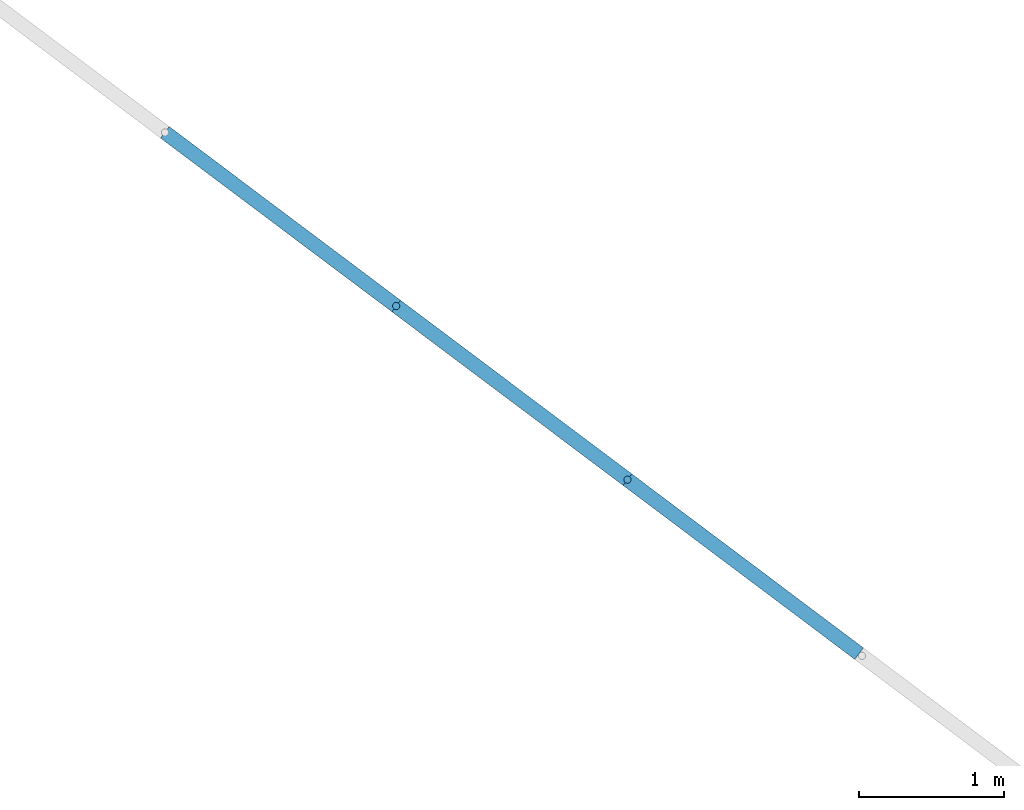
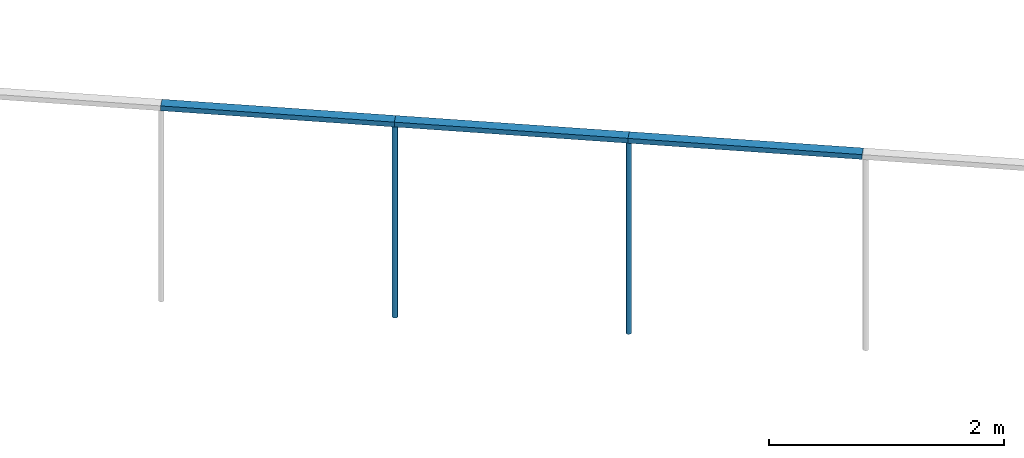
# One storey, part 8 of 12: 5 members, 1 element without a shape of its own.
"""IFC2X3 building model written with IfcOpenShell, lengths in metres."""

from ifc_helpers import new_model, entity, si_unit, converted_unit, derived_unit, direction, frame, frame_2d, origin, origin_2d_with_axis, place, context, subcontext, project, spatial, rectangle, circle, extrude, source, transform, mapped, material, type_object, type_shapes, element, aggregate, save


model = new_model("IFC2X3")

# Units and contexts
model_context = context("Model", 3, precision=1e-05, world=origin(), true_north=direction((6.123031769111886e-17, 1.0)))
body_context = subcontext(model_context, "Body", "Model", "MODEL_VIEW")
ifc_project = project(units=[si_unit("LENGTHUNIT", "METRE"), si_unit("AREAUNIT", "SQUARE_METRE"), si_unit("VOLUMEUNIT", "CUBIC_METRE"), converted_unit("PLANEANGLEUNIT", "DEGREE", entity("IfcRatioMeasure", 0.017453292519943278), si_unit("PLANEANGLEUNIT", "RADIAN"), dimensions=[0, 0, 0, 0, 0, 0, 0]), si_unit("MASSUNIT", "GRAM", prefix="KILO"), derived_unit("MASSDENSITYUNIT", [(si_unit("MASSUNIT", "GRAM", prefix="KILO"), 1), (si_unit("LENGTHUNIT", "METRE"), -3)]), derived_unit("IONCONCENTRATIONUNIT", [(si_unit("MASSUNIT", "GRAM", prefix="KILO"), 1), (si_unit("LENGTHUNIT", "METRE"), -3)]), derived_unit("MOMENTOFINERTIAUNIT", [(si_unit("LENGTHUNIT", "METRE"), 4)]), si_unit("TIMEUNIT", "SECOND"), si_unit("FREQUENCYUNIT", "HERTZ"), si_unit("THERMODYNAMICTEMPERATUREUNIT", "DEGREE_CELSIUS"), derived_unit("THERMALTRANSMITTANCEUNIT", [(si_unit("MASSUNIT", "GRAM", prefix="KILO"), 1), (si_unit("THERMODYNAMICTEMPERATUREUNIT", "KELVIN"), -1), (si_unit("TIMEUNIT", "SECOND"), -3)]), derived_unit("THERMALCONDUCTANCEUNIT", [(si_unit("MASSUNIT", "GRAM", prefix="KILO"), 1), (si_unit("THERMODYNAMICTEMPERATUREUNIT", "KELVIN"), -1), (si_unit("TIMEUNIT", "SECOND"), -3), (si_unit("LENGTHUNIT", "METRE"), 1)]), derived_unit("VOLUMETRICFLOWRATEUNIT", [(si_unit("LENGTHUNIT", "METRE"), 3), (si_unit("TIMEUNIT", "SECOND"), -1)]), derived_unit("MASSFLOWRATEUNIT", [(si_unit("MASSUNIT", "GRAM", prefix="KILO"), 1), (si_unit("TIMEUNIT", "SECOND"), -1)]), derived_unit("ROTATIONALFREQUENCYUNIT", [(si_unit("TIMEUNIT", "SECOND"), -1)]), si_unit("ELECTRICCURRENTUNIT", "AMPERE"), si_unit("ELECTRICVOLTAGEUNIT", "VOLT"), si_unit("POWERUNIT", "WATT"), si_unit("FORCEUNIT", "NEWTON", prefix="KILO"), si_unit("ILLUMINANCEUNIT", "LUX"), si_unit("LUMINOUSFLUXUNIT", "LUMEN"), si_unit("LUMINOUSINTENSITYUNIT", "CANDELA"), derived_unit("USERDEFINED", [(si_unit("MASSUNIT", "GRAM", prefix="KILO"), -1), (si_unit("LENGTHUNIT", "METRE"), -2), (si_unit("TIMEUNIT", "SECOND"), 3), (si_unit("LUMINOUSFLUXUNIT", "LUMEN"), 1)]), derived_unit("USERDEFINED", [(si_unit("MASSUNIT", "GRAM", prefix="KILO"), 1), (si_unit("TIMEUNIT", "SECOND"), -3), (si_unit("LENGTHUNIT", "METRE"), 3), (si_unit("ELECTRICCURRENTUNIT", "AMPERE"), -2)]), derived_unit("SOUNDPOWERUNIT", [(si_unit("MASSUNIT", "GRAM", prefix="KILO"), 1), (si_unit("TIMEUNIT", "SECOND"), -3), (si_unit("LENGTHUNIT", "METRE"), 2)]), derived_unit("SOUNDPRESSUREUNIT", [(si_unit("MASSUNIT", "GRAM", prefix="KILO"), 1), (si_unit("LENGTHUNIT", "METRE"), -1), (si_unit("TIMEUNIT", "SECOND"), -2)]), derived_unit("LINEARVELOCITYUNIT", [(si_unit("LENGTHUNIT", "METRE"), 1), (si_unit("TIMEUNIT", "SECOND"), -1)]), si_unit("PRESSUREUNIT", "PASCAL"), derived_unit("USERDEFINED", [(si_unit("MASSUNIT", "GRAM", prefix="KILO"), 1), (si_unit("LENGTHUNIT", "METRE"), -2), (si_unit("TIMEUNIT", "SECOND"), -2)]), derived_unit("LINEARFORCEUNIT", [(si_unit("MASSUNIT", "GRAM", prefix="KILO"), 1), (si_unit("TIMEUNIT", "SECOND"), -2)]), derived_unit("PLANARFORCEUNIT", [(si_unit("MASSUNIT", "GRAM", prefix="KILO"), 1), (si_unit("LENGTHUNIT", "METRE"), -1), (si_unit("TIMEUNIT", "SECOND"), -2)]), derived_unit("SPECIFICHEATCAPACITYUNIT", [(si_unit("THERMODYNAMICTEMPERATUREUNIT", "KELVIN"), -1), (si_unit("LENGTHUNIT", "METRE"), 2), (si_unit("TIMEUNIT", "SECOND"), -2)]), derived_unit("HEATINGVALUEUNIT", [(si_unit("LENGTHUNIT", "METRE"), 2), (si_unit("TIMEUNIT", "SECOND"), -2)]), derived_unit("VAPORPERMEABILITYUNIT", [(si_unit("LENGTHUNIT", "METRE"), -1), (si_unit("TIMEUNIT", "SECOND"), 1)]), derived_unit("DYNAMICVISCOSITYUNIT", [(si_unit("MASSUNIT", "GRAM", prefix="KILO"), 1), (si_unit("TIMEUNIT", "SECOND"), -1), (si_unit("LENGTHUNIT", "METRE"), -1)]), derived_unit("THERMALEXPANSIONCOEFFICIENTUNIT", [(si_unit("THERMODYNAMICTEMPERATUREUNIT", "KELVIN"), -1)]), derived_unit("MODULUSOFELASTICITYUNIT", [(si_unit("MASSUNIT", "GRAM", prefix="KILO"), 1), (si_unit("LENGTHUNIT", "METRE"), -1), (si_unit("TIMEUNIT", "SECOND"), -2)]), derived_unit("ISOTHERMALMOISTURECAPACITYUNIT", [(si_unit("LENGTHUNIT", "METRE"), 3), (si_unit("MASSUNIT", "GRAM", prefix="KILO"), -1)]), derived_unit("MOISTUREDIFFUSIVITYUNIT", [(si_unit("TIMEUNIT", "SECOND"), -1), (si_unit("LENGTHUNIT", "METRE"), 2)])], contexts=[model_context])

# Site, building, storey
site_placement = place(None, origin())
site = spatial("IfcSite", under=ifc_project, at=site_placement, Name="Superficie", CompositionType="ELEMENT")
building_placement = place(site_placement, frame((0.0, 0.0, 235.0), z_axis=(0.0, 0.0, 1.0), x_axis=(-0.7996477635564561, 0.6004693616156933, 0.0)))
building = spatial("IfcBuilding", under=site, at=building_placement, CompositionType="ELEMENT")
storey_placement = place(building_placement, frame((0.0, 0.0, -4.459999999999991)))
storey = spatial("IfcBuildingStorey", under=building, at=storey_placement, Name="PS1- Vestuari", CompositionType="ELEMENT", Elevation=-4.459999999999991)

# Curtain wall, members
curtain_wall_type = type_object("IfcCurtainWallType", Name="Muro cortina:SER EXT- Tanca exterior", PredefinedType="NOTDEFINED")
curtain_wall_placement = place(storey_placement, frame((0.0, 0.0, 4.459999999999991)))
curtain_wall = element("IfcCurtainWall", 1, at=curtain_wall_placement, inside=storey, type_object=curtain_wall_type, Name="Muro cortina:SER EXT- Tanca exterior", ObjectType="Muro cortina:SER EXT- Tanca exterior")
ifc_material_1 = material(Name="Acero inoxidable")
member_type_1 = type_object("IfcMemberType", Name="Montante circular:Perfil Tanca exterior", PredefinedType="MULLION", material=ifc_material_1)
shared_shape_1 = source(origin(), body_context, "Body", "SweptSolid", [
    extrude(circle(Radius=0.025, at=frame_2d((-2.1149748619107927e-18, -4.0388614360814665e-17), x_axis=(1.0, 0.0))), frame((0.0, 0.0, -2.0), z_axis=(0.0, 0.0, 1.0), x_axis=(-1.0, 0.0, 0.0)), (0.0, 0.0, 1.0), 1.9999999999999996),
])
type_shapes(member_type_1, [shared_shape_1])
member_1_placement = place(curtain_wall_placement, frame((47.93061441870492, -66.55949841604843, -5.509999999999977), z_axis=(0.0, 0.0, -1.0), x_axis=(-1.0, 0.0, 0.0)))
member_1 = element("IfcMember", 2, at=member_1_placement, type_object=member_type_1, material=ifc_material_1, Name="Montante circular:Perfil Tanca exterior", ObjectType="Montante circular:Perfil Tanca exterior", context=body_context, shape_type="MappedRepresentation", body=[
    mapped(shared_shape_1, transform((0.0, 0.0, 0.0), scale=1.0)),
])
member_2_placement = place(curtain_wall_placement, frame((45.93061441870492, -66.55949841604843, -5.509999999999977), z_axis=(0.0, 0.0, -1.0), x_axis=(-1.0, 0.0, 0.0)))
member_2 = element("IfcMember", 3, at=member_2_placement, type_object=member_type_1, material=ifc_material_1, Name="Montante circular:Perfil Tanca exterior", ObjectType="Montante circular:Perfil Tanca exterior", context=body_context, shape_type="MappedRepresentation", body=[
    mapped(shared_shape_1, transform((0.0, 0.0, 0.0), scale=1.0)),
])
ifc_material_2 = material(Name="_Formigó- Solera- T1- STR")
member_type_2 = type_object("IfcMemberType", Name="Montante rectangular:Montante rectangular 100x50", PredefinedType="MULLION", material=ifc_material_2)
shared_shape_2 = source(origin(), body_context, "Body", "SweptSolid", [
    extrude(rectangle(XDim=0.1, YDim=0.05000000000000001, at=origin_2d_with_axis()), frame((-0.025000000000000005, 0.0, -2.0), z_axis=(0.0, 0.0, 1.0), x_axis=(0.0, -1.0, 0.0)), (0.0, 0.0, 1.0), 2.0000000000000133),
])
type_shapes(member_type_2, [shared_shape_2])
member_3_placement = place(curtain_wall_placement, frame((47.93061441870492, -66.55949841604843, -3.459999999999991), z_axis=(-1.0, 0.0, 0.0), x_axis=(0.0, 0.0, 1.0)))
member_3 = element("IfcMember", 4, at=member_3_placement, type_object=member_type_2, material=ifc_material_2, Name="Montante rectangular:Montante rectangular 100x50", ObjectType="Montante rectangular:Montante rectangular 100x50", context=body_context, shape_type="MappedRepresentation", body=[
    mapped(shared_shape_2, transform((0.0, 0.0, 0.0), scale=1.0)),
])
member_4_placement = place(curtain_wall_placement, frame((45.93061441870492, -66.55949841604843, -3.459999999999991), z_axis=(-1.0, 0.0, 0.0), x_axis=(0.0, 0.0, 1.0)))
member_4 = element("IfcMember", 5, at=member_4_placement, type_object=member_type_2, material=ifc_material_2, Name="Montante rectangular:Montante rectangular 100x50", ObjectType="Montante rectangular:Montante rectangular 100x50", context=body_context, shape_type="MappedRepresentation", body=[
    mapped(shared_shape_2, transform((0.0, 0.0, 0.0), scale=1.0)),
])
member_type_3 = type_object("IfcMemberType", Name="Montante rectangular:Montante rectangular 100x50", PredefinedType="MULLION", material=ifc_material_2)
shared_shape_3 = source(origin(), body_context, "Body", "SweptSolid", [
    extrude(rectangle(XDim=0.1, YDim=0.05000000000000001, at=origin_2d_with_axis()), frame((-0.025000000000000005, 0.0, -2.0029524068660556), z_axis=(0.0, 0.0, 1.0), x_axis=(0.0, -1.0, 0.0)), (0.0, 0.0, 1.0), 2.0029524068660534),
])
type_shapes(member_type_3, [shared_shape_3])
member_5_placement = place(curtain_wall_placement, frame((43.92766201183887, -66.55949841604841, -3.459999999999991), z_axis=(-1.0, 0.0, 0.0), x_axis=(0.0, 0.0, 1.0)))
member_5 = element("IfcMember", 6, at=member_5_placement, type_object=member_type_3, material=ifc_material_2, Name="Montante rectangular:Montante rectangular 100x50", ObjectType="Montante rectangular:Montante rectangular 100x50", context=body_context, shape_type="MappedRepresentation", body=[
    mapped(shared_shape_3, transform((0.0, 0.0, 0.0), scale=1.0)),
])
aggregate(curtain_wall, [member_1, member_2, member_5, member_3, member_4])

save(model, "model.ifc")
